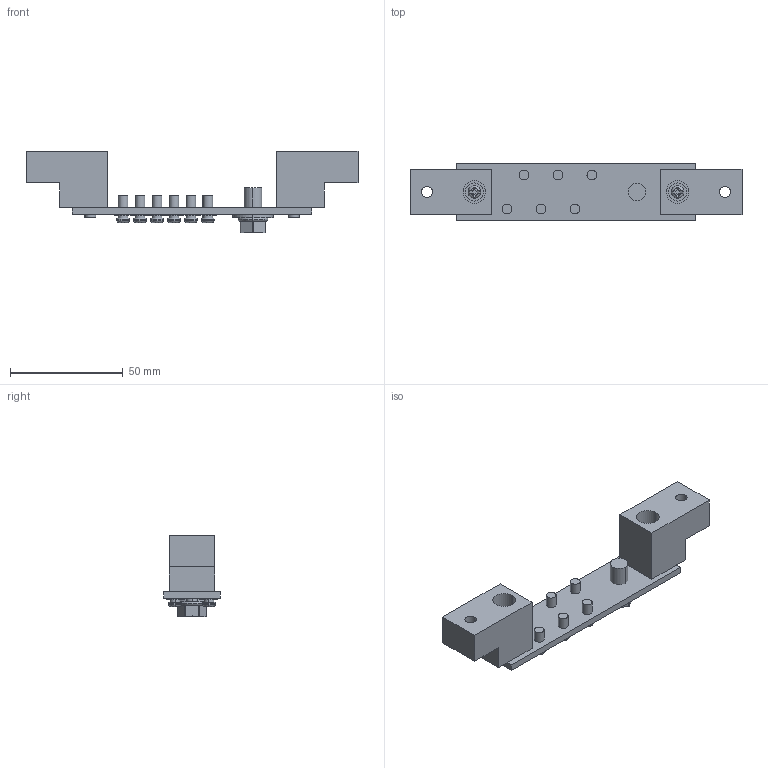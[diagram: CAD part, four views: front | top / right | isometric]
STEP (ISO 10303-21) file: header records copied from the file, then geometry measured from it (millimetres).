
FILE_DESCRIPTION(('Creo Elements/Direct Modeling STEP Export'),'2;1');
FILE_NAME('7N.stp','2025-07-23T16:41:14',(''),(''),'PTC Creo Elements/Direct Modeling STEP processor for AP214 (Solid Model)','PTC Creo Elements/Direct Modeling 19.0 09-May-2014 (C) Parametric Technology GmbH','');
FILE_SCHEMA(('AUTOMOTIVE_DESIGN { 1 0 10303 214 1 1 1 1 }'));
Length unit declared in the file: millimetre
Products named in the file (19): QUILT_3-34740.PRT; QUILT_2-34360.PRT; QUILT_1-14960.PRT; USER_LIBRARY-SAN_ZU_HE_LUO-2060.PRT; M5_1_1_1_1_1_1_1_1_2.ASM; CU.PRT; QUILT_3-85900.PRT; QUILT_2-85520.PRT; QUILT_1-66120.PRT; USER_LIBRARY-SAN_ZU_HE_LU-53220.PRT; M5_1_1_1_1_1_1_1_1_1_1_1_1_1_1.ASM; SCREW_1_2_PRT.PRT; SCREW_1_1_PRT.PRT; SCREW_1_ASM.ASM; SCREW_0723_STP.ASM; A1.ASM; HOLD_1.PRT; 17N_1.ASM; 7N
Assembly tree (25 placements, depth 5):
  7N
    17N_1.ASM
      HOLD_1.PRT  x2
      M5_1_1_1_1_1_1_1_1_2.ASM  x3
        USER_LIBRARY-SAN_ZU_HE_LUO-2060.PRT
        QUILT_1-14960.PRT
        QUILT_2-34360.PRT
        QUILT_3-34740.PRT
      A1.ASM
        M5_1_1_1_1_1_1_1_1_2.ASM  x3
          USER_LIBRARY-SAN_ZU_HE_LUO-2060.PRT
          QUILT_1-14960.PRT
          QUILT_2-34360.PRT
          QUILT_3-34740.PRT
      SCREW_0723_STP.ASM
        SCREW_1_ASM.ASM
          SCREW_1_1_PRT.PRT
          SCREW_1_2_PRT.PRT
      M5_1_1_1_1_1_1_1_1_1_1_1_1_1_1.ASM  x2
        USER_LIBRARY-SAN_ZU_HE_LU-53220.PRT
        QUILT_1-66120.PRT
        QUILT_2-85520.PRT
        QUILT_3-85900.PRT
      CU.PRT
Bounding box: 147 x 25 x 36.2 mm (x, y, z)
Volume: 35026.1 mm3; surface area: 20182.6 mm2
Topology: 21 solids, 21 shells, 420 faces, 1052 edges, 690 vertices
Faces by surface type: plane 236, cylinder 148, torus 36
Entity records: 6174 total; most frequent: CARTESIAN_POINT 993, DIRECTION 846, ORIENTED_EDGE 844, EDGE_CURVE 422, AXIS2_PLACEMENT_3D 309, VERTEX_POINT 278, VECTOR 228, LINE 228
